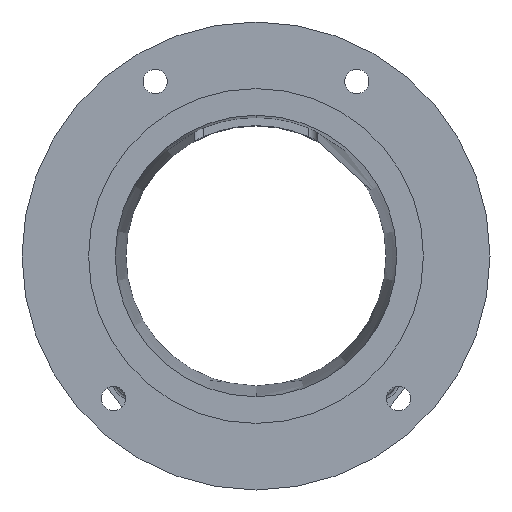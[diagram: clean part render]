
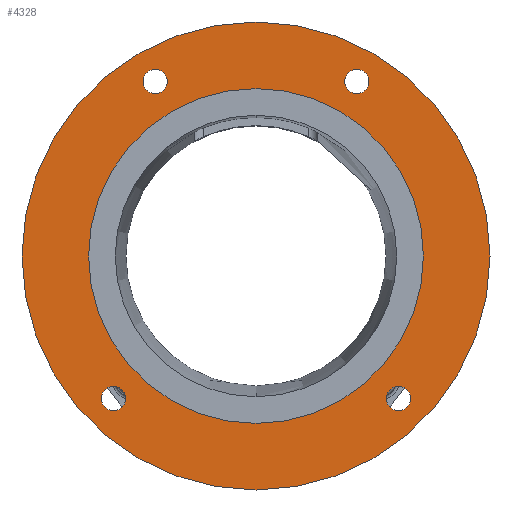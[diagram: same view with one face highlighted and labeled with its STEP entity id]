
A CAD part, front view. The second image highlights one B-rep face of the part: STEP entity #4328.
In plain terms, the highlighted planar face has unit normal (0, -1, 0).
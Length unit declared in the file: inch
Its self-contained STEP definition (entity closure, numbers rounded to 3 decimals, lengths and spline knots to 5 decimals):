
#22 = CARTESIAN_POINT ( 'NONE',  ( 1.9375, 0., 3.35585 ) ) ;
#211 = ORIENTED_EDGE ( 'NONE', *, *, #6660, .F. ) ;
#224 = EDGE_CURVE ( 'NONE', #6288, #5037, #3698, .T. ) ;
#239 = AXIS2_PLACEMENT_3D ( 'NONE', #5049, #5068, #5118 ) ;
#329 = FACE_OUTER_BOUND ( 'NONE', #2818, .T. ) ;
#331 = AXIS2_PLACEMENT_3D ( 'NONE', #5165, #5158, #5147 ) ;
#454 = EDGE_CURVE ( 'NONE', #5995, #851, #5321, .T. ) ;
#480 = ORIENTED_EDGE ( 'NONE', *, *, #1191, .F. ) ;
#504 = FACE_BOUND ( 'NONE', #6541, .T. ) ;
#508 = AXIS2_PLACEMENT_3D ( 'NONE', #1521, #1418, #1240 ) ;
#613 = EDGE_CURVE ( 'NONE', #5037, #6288, #2833, .T. ) ;
#784 = CARTESIAN_POINT ( 'NONE',  ( 2.74004, 0., -2.97441 ) ) ;
#851 = VERTEX_POINT ( 'NONE', #2894 ) ;
#853 = CIRCLE ( 'NONE', #3659, 0.23438 ) ;
#1048 = CARTESIAN_POINT ( 'NONE',  ( -1.9375, 0., 3.59022 ) ) ;
#1107 = CIRCLE ( 'NONE', #6040, 0.23438 ) ;
#1115 = CIRCLE ( 'NONE', #3439, 0.23438 ) ;
#1130 = ORIENTED_EDGE ( 'NONE', *, *, #4512, .F. ) ;
#1191 = EDGE_CURVE ( 'NONE', #1805, #3479, #1115, .T. ) ;
#1240 = DIRECTION ( 'NONE',  ( 0., 0., -1. ) ) ;
#1258 = ORIENTED_EDGE ( 'NONE', *, *, #6031, .F. ) ;
#1331 = EDGE_LOOP ( 'NONE', ( #5823, #1534 ) ) ;
#1352 = AXIS2_PLACEMENT_3D ( 'NONE', #3782, #3759, #3736 ) ;
#1418 = DIRECTION ( 'NONE',  ( 0., -1., 0. ) ) ;
#1521 = CARTESIAN_POINT ( 'NONE',  ( -1.9375, 0., 3.35585 ) ) ;
#1534 = ORIENTED_EDGE ( 'NONE', *, *, #613, .F. ) ;
#1659 = CARTESIAN_POINT ( 'NONE',  ( -2.74004, 0., -2.97441 ) ) ;
#1728 = CARTESIAN_POINT ( 'NONE',  ( 1.9375, 0., 3.59022 ) ) ;
#1805 = VERTEX_POINT ( 'NONE', #4126 ) ;
#1817 = FACE_BOUND ( 'NONE', #1875, .T. ) ;
#1820 = VERTEX_POINT ( 'NONE', #3675 ) ;
#1837 = AXIS2_PLACEMENT_3D ( 'NONE', #1956, #2068, #2034 ) ;
#1875 = EDGE_LOOP ( 'NONE', ( #5304, #2688 ) ) ;
#1956 = CARTESIAN_POINT ( 'NONE',  ( -2.74004, 0., -2.74004 ) ) ;
#2015 = FACE_BOUND ( 'NONE', #2658, .T. ) ;
#2034 = DIRECTION ( 'NONE',  ( 0., 0., -1. ) ) ;
#2068 = DIRECTION ( 'NONE',  ( 0., -1., 0. ) ) ;
#2265 = CARTESIAN_POINT ( 'NONE',  ( 0., 0., 4.5 ) ) ;
#2382 = DIRECTION ( 'NONE',  ( 0., -1., 0. ) ) ;
#2385 = CARTESIAN_POINT ( 'NONE',  ( 0., 0., 0. ) ) ;
#2388 = DIRECTION ( 'NONE',  ( 0., 0., -1. ) ) ;
#2401 = VERTEX_POINT ( 'NONE', #1048 ) ;
#2658 = EDGE_LOOP ( 'NONE', ( #211, #480 ) ) ;
#2688 = ORIENTED_EDGE ( 'NONE', *, *, #4751, .F. ) ;
#2729 = AXIS2_PLACEMENT_3D ( 'NONE', #2385, #2382, #2388 ) ;
#2754 = VERTEX_POINT ( 'NONE', #1728 ) ;
#2763 = ORIENTED_EDGE ( 'NONE', *, *, #2839, .T. ) ;
#2783 = ORIENTED_EDGE ( 'NONE', *, *, #5855, .F. ) ;
#2818 = EDGE_LOOP ( 'NONE', ( #6025, #2763 ) ) ;
#2819 = AXIS2_PLACEMENT_3D ( 'NONE', #6538, #6530, #6524 ) ;
#2833 = CIRCLE ( 'NONE', #1837, 0.23438 ) ;
#2839 = EDGE_CURVE ( 'NONE', #3329, #1820, #5070, .T. ) ;
#2858 = DIRECTION ( 'NONE',  ( 0., 0., -1. ) ) ;
#2894 = CARTESIAN_POINT ( 'NONE',  ( 0., 0., 3.2195 ) ) ;
#3121 = DIRECTION ( 'NONE',  ( 0., 0., -1. ) ) ;
#3141 = DIRECTION ( 'NONE',  ( 0., -1., 0. ) ) ;
#3150 = CARTESIAN_POINT ( 'NONE',  ( 2.74004, 0., -2.74004 ) ) ;
#3200 = VERTEX_POINT ( 'NONE', #3623 ) ;
#3329 = VERTEX_POINT ( 'NONE', #2265 ) ;
#3439 = AXIS2_PLACEMENT_3D ( 'NONE', #5930, #4116, #2858 ) ;
#3479 = VERTEX_POINT ( 'NONE', #784 ) ;
#3490 = CIRCLE ( 'NONE', #508, 0.23438 ) ;
#3623 = CARTESIAN_POINT ( 'NONE',  ( -1.9375, 0., 3.12147 ) ) ;
#3659 = AXIS2_PLACEMENT_3D ( 'NONE', #4779, #4736, #4542 ) ;
#3675 = CARTESIAN_POINT ( 'NONE',  ( 0., 0., -4.5 ) ) ;
#3698 = CIRCLE ( 'NONE', #239, 0.23438 ) ;
#3736 = DIRECTION ( 'NONE',  ( 0., 0., -1. ) ) ;
#3759 = DIRECTION ( 'NONE',  ( 0., -1., 0. ) ) ;
#3782 = CARTESIAN_POINT ( 'NONE',  ( 1.9375, 0., 3.35585 ) ) ;
#4042 = CARTESIAN_POINT ( 'NONE',  ( 1.9375, 0., 3.12147 ) ) ;
#4088 = CIRCLE ( 'NONE', #4231, 0.23438 ) ;
#4104 = AXIS2_PLACEMENT_3D ( 'NONE', #5159, #5134, #5109 ) ;
#4116 = DIRECTION ( 'NONE',  ( 0., -1., 0. ) ) ;
#4126 = CARTESIAN_POINT ( 'NONE',  ( 2.74004, 0., -2.50566 ) ) ;
#4231 = AXIS2_PLACEMENT_3D ( 'NONE', #22, #6698, #6277 ) ;
#4317 = CIRCLE ( 'NONE', #4104, 3.2195 ) ;
#4328 = ADVANCED_FACE ( 'NONE', ( #504, #5993, #2015, #4727, #1817, #329 ), #5524, .F. ) ;
#4410 = CIRCLE ( 'NONE', #1352, 0.23438 ) ;
#4512 = EDGE_CURVE ( 'NONE', #2754, #5913, #4088, .T. ) ;
#4542 = DIRECTION ( 'NONE',  ( 0., 0., -1. ) ) ;
#4604 = EDGE_LOOP ( 'NONE', ( #1258, #1130 ) ) ;
#4727 = FACE_BOUND ( 'NONE', #1331, .T. ) ;
#4736 = DIRECTION ( 'NONE',  ( 0., -1., 0. ) ) ;
#4751 = EDGE_CURVE ( 'NONE', #851, #5995, #4317, .T. ) ;
#4779 = CARTESIAN_POINT ( 'NONE',  ( -1.9375, 0., 3.35585 ) ) ;
#5037 = VERTEX_POINT ( 'NONE', #6776 ) ;
#5049 = CARTESIAN_POINT ( 'NONE',  ( -2.74004, 0., -2.74004 ) ) ;
#5068 = DIRECTION ( 'NONE',  ( 0., -1., 0. ) ) ;
#5070 = CIRCLE ( 'NONE', #2819, 4.5 ) ;
#5109 = DIRECTION ( 'NONE',  ( 0., 0., -1. ) ) ;
#5118 = DIRECTION ( 'NONE',  ( 0., 0., -1. ) ) ;
#5134 = DIRECTION ( 'NONE',  ( 0., -1., 0. ) ) ;
#5147 = DIRECTION ( 'NONE',  ( 0., 0., -1. ) ) ;
#5158 = DIRECTION ( 'NONE',  ( 0., -1., 0. ) ) ;
#5159 = CARTESIAN_POINT ( 'NONE',  ( 0., 0., 0. ) ) ;
#5165 = CARTESIAN_POINT ( 'NONE',  ( 0., 0., 0. ) ) ;
#5303 = CARTESIAN_POINT ( 'NONE',  ( 0., 0., -3.2195 ) ) ;
#5304 = ORIENTED_EDGE ( 'NONE', *, *, #454, .F. ) ;
#5321 = CIRCLE ( 'NONE', #2729, 3.2195 ) ;
#5457 = DIRECTION ( 'NONE',  ( 0., 0., 1. ) ) ;
#5488 = CARTESIAN_POINT ( 'NONE',  ( -4.5, 0., 0. ) ) ;
#5524 = PLANE ( 'NONE',  #6604 ) ;
#5823 = ORIENTED_EDGE ( 'NONE', *, *, #224, .F. ) ;
#5833 = EDGE_CURVE ( 'NONE', #2401, #3200, #853, .T. ) ;
#5855 = EDGE_CURVE ( 'NONE', #3200, #2401, #3490, .T. ) ;
#5913 = VERTEX_POINT ( 'NONE', #4042 ) ;
#5930 = CARTESIAN_POINT ( 'NONE',  ( 2.74004, 0., -2.74004 ) ) ;
#5993 = FACE_BOUND ( 'NONE', #4604, .T. ) ;
#5995 = VERTEX_POINT ( 'NONE', #5303 ) ;
#6025 = ORIENTED_EDGE ( 'NONE', *, *, #6438, .T. ) ;
#6031 = EDGE_CURVE ( 'NONE', #5913, #2754, #4410, .T. ) ;
#6040 = AXIS2_PLACEMENT_3D ( 'NONE', #3150, #3141, #3121 ) ;
#6056 = DIRECTION ( 'NONE',  ( 0., 1., 0. ) ) ;
#6277 = DIRECTION ( 'NONE',  ( 0., 0., -1. ) ) ;
#6288 = VERTEX_POINT ( 'NONE', #1659 ) ;
#6294 = CIRCLE ( 'NONE', #331, 4.5 ) ;
#6438 = EDGE_CURVE ( 'NONE', #1820, #3329, #6294, .T. ) ;
#6524 = DIRECTION ( 'NONE',  ( 0., 0., -1. ) ) ;
#6530 = DIRECTION ( 'NONE',  ( 0., -1., 0. ) ) ;
#6538 = CARTESIAN_POINT ( 'NONE',  ( 0., 0., 0. ) ) ;
#6541 = EDGE_LOOP ( 'NONE', ( #2783, #6767 ) ) ;
#6604 = AXIS2_PLACEMENT_3D ( 'NONE', #5488, #6056, #5457 ) ;
#6660 = EDGE_CURVE ( 'NONE', #3479, #1805, #1107, .T. ) ;
#6698 = DIRECTION ( 'NONE',  ( 0., -1., 0. ) ) ;
#6767 = ORIENTED_EDGE ( 'NONE', *, *, #5833, .F. ) ;
#6776 = CARTESIAN_POINT ( 'NONE',  ( -2.74004, 0., -2.50566 ) ) ;
